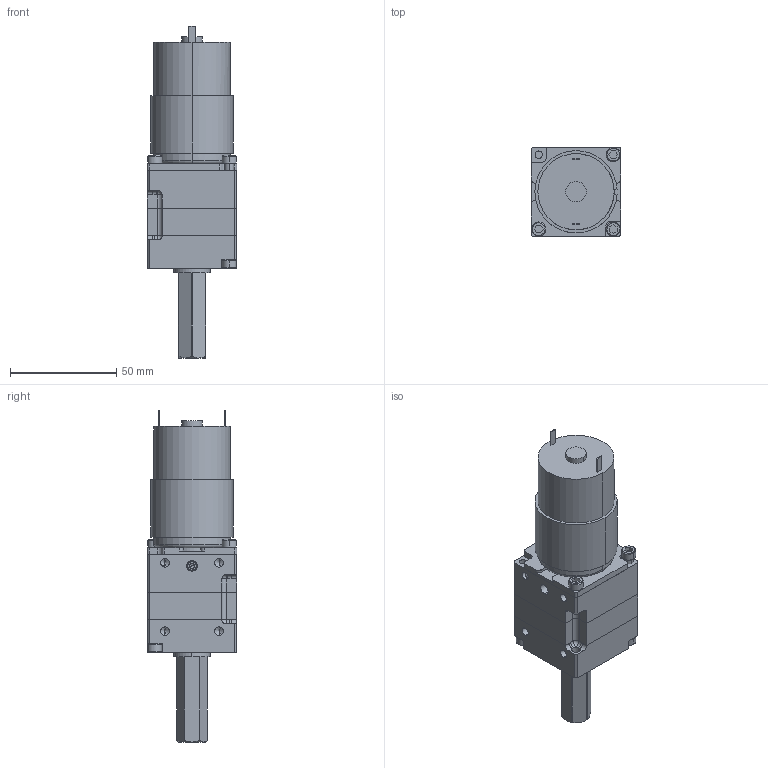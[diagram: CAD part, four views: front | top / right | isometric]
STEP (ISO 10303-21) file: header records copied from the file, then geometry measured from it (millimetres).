
FILE_DESCRIPTION (( 'STEP AP214' ), '1' );
FILE_NAME ('VersaPlanetary RS550 Release.STEP', '2014-02-13T21:23:42', ( 'IFMI-VEX04' ), ( '' ), 'SwSTEP 2.0', 'SolidWorks 2013', '' );
FILE_SCHEMA (( 'AUTOMOTIVE_DESIGN' ));
Length unit declared in the file: millimetre
Products named in the file (22): 217-2816-001 Rev1; 217-2625-009 Rev1; 217-2625-003 Rev1; 217-2822-001 Rev4; 217-2625-002 Rev1; BaneBots RS550; 217-2625-001 Rev1; PINL-M020-006-S; 217-2625-017 Rev1_9714K61; VersaPlanetary RS550 Release; 217-2625-018 Rev1_98541A410; SSS1032-0125ZB_94105A824; SSA_SSA0832-1250ZC; 217-2742; SSA_SSAM3-0008ZC; SSA_SSA0832-0500ZC; 217-2625-012 Rev1; 217-2625-100; 217-2625-005 Rev1_Planet_Revolving_Follower01; 217-2625-010 Rev1; 217-2625-008 Rev1; 217-2625-007 Rev1_Sun_Driver01
Assembly tree (31 placements, depth 3):
  VersaPlanetary RS550 Release
    217-2625-001 Rev1
    217-2625-002 Rev1
    217-2625-003 Rev1
    217-2625-009 Rev1
    217-2816-001 Rev1
    217-2625-007 Rev1_Sun_Driver01
    217-2625-100
      217-2625-008 Rev1
      217-2625-010 Rev1  x3
      217-2625-005 Rev1_Planet_Revolving_Follower01  x3
    217-2625-012 Rev1
    SSA_SSA0832-0500ZC  x3
    SSA_SSAM3-0008ZC  x2
    217-2742  x2
    SSA_SSA0832-1250ZC  x2
    SSS1032-0125ZB_94105A824
    217-2625-018 Rev1_98541A410
    217-2625-017 Rev1_9714K61
    PINL-M020-006-S  x2
    BaneBots RS550
    217-2822-001 Rev4
Bounding box: 42 x 42 x 155.97 mm (x, y, z)
Volume: 134485.1 mm3; surface area: 58284.3 mm2
Topology: 31 solids, 31 shells, 1940 faces, 5111 edges, 3267 vertices
Faces by surface type: cylinder 780, plane 392, bspline 340, cone 288, torus 136, sphere 4
Entity records: 97904 total; most frequent: CARTESIAN_POINT 56786, ORIENTED_EDGE 8806, DIRECTION 7832, EDGE_CURVE 4403, AXIS2_PLACEMENT_3D 3195, VERTEX_POINT 2827, EDGE_LOOP 1782, CIRCLE 1770
